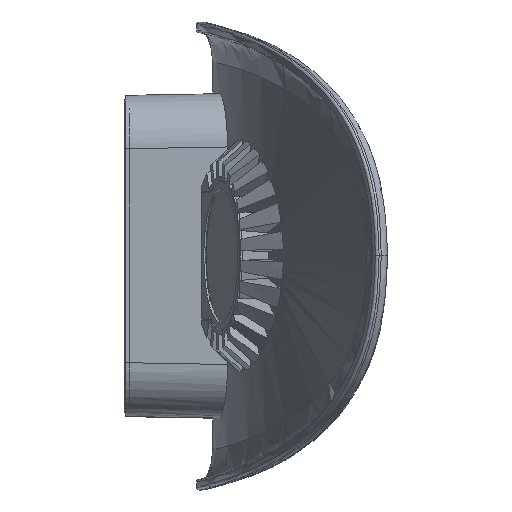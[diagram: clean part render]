
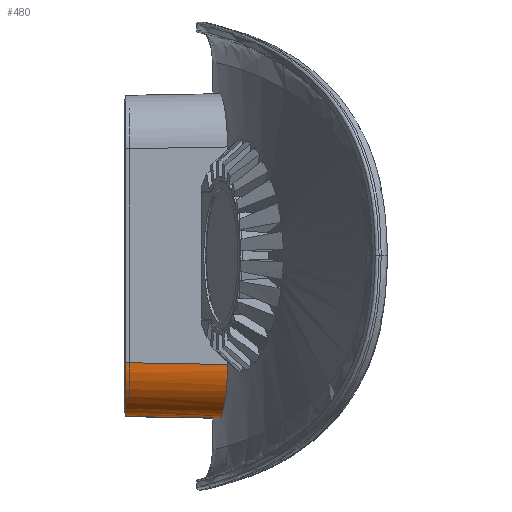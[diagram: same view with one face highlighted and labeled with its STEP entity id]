
A CAD part, top view. The second image highlights one B-rep face of the part: STEP entity #480.
In plain terms, the highlighted free-form (B-spline) face has degree [2, 1] with [9, 2] control points.
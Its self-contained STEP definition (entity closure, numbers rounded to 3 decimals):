
#480=ADVANCED_FACE('',(#774),#6174,.T.);
#774=FACE_OUTER_BOUND('',#1076,.T.);
#1076=EDGE_LOOP('',(#3003,#3004,#3005,#3006));
#3003=ORIENTED_EDGE('',*,*,#4177,.T.);
#3004=ORIENTED_EDGE('',*,*,#3329,.T.);
#3005=ORIENTED_EDGE('',*,*,#4178,.F.);
#3006=ORIENTED_EDGE('',*,*,#3368,.F.);
#3329=EDGE_CURVE('',#5419,#5425,#5217,.T.);
#3368=EDGE_CURVE('',#5472,#5554,#4380,.T.);
#4177=EDGE_CURVE('',#5472,#5419,#5076,.T.);
#4178=EDGE_CURVE('',#5554,#5425,#5077,.T.);
#4380=B_SPLINE_CURVE_WITH_KNOTS('',3,(#26215,#26216,#26217,#26218,#26219,
#26220,#26221,#26222,#26223,#26224,#26225,#26226,#26227,#26228,#26229,#26230,
#26231,#26232),.UNSPECIFIED.,.F.,.F.,(4,2,2,2,2,2,2,2,4),(0.,3.944,
7.889,11.833,15.777,19.747,23.717,
27.686,31.65),.UNSPECIFIED.);
#5076=B_SPLINE_CURVE_WITH_KNOTS('',1,(#34392,#34393),.UNSPECIFIED.,.F.,
 .F.,(2,2),(0.,38.298),.UNSPECIFIED.);
#5077=B_SPLINE_CURVE_WITH_KNOTS('',1,(#34394,#34395),.UNSPECIFIED.,.F.,
 .F.,(2,2),(-35.229,0.),.UNSPECIFIED.);
#5217=(
BOUNDED_CURVE()
B_SPLINE_CURVE(2,(#25674,#25675,#25676,#25677,#25678),.UNSPECIFIED.,.F.,
 .F.)
B_SPLINE_CURVE_WITH_KNOTS((3,2,3),(-33.132,-16.566,
0.),.UNSPECIFIED.)
CURVE()
GEOMETRIC_REPRESENTATION_ITEM()
RATIONAL_B_SPLINE_CURVE((1.,0.924,1.,0.924,1.))
REPRESENTATION_ITEM('')
);
#5419=VERTEX_POINT('',#24742);
#5425=VERTEX_POINT('',#24748);
#5472=VERTEX_POINT('',#24795);
#5554=VERTEX_POINT('',#24877);
#6174=(
BOUNDED_SURFACE()
B_SPLINE_SURFACE(2,1,((#23352,#23353),(#23354,#23355),(#23356,#23357),(#23358,
#23359),(#23360,#23361),(#23362,#23363),(#23364,#23365),(#23366,#23367),
(#23368,#23369)),.UNSPECIFIED.,.T.,.F.,.F.)
B_SPLINE_SURFACE_WITH_KNOTS((3,2,2,2,3),(2,2),(0.,31.416,62.832,
94.248,125.664),(0.,47.042),.UNSPECIFIED.)
GEOMETRIC_REPRESENTATION_ITEM()
RATIONAL_B_SPLINE_SURFACE(((1.,1.),(0.707,0.707),
(1.,1.),(0.707,0.707),(1.,1.),(0.707,
0.707),(1.,1.),(0.707,0.707),(1.,1.)))
REPRESENTATION_ITEM('')
SURFACE()
);
#23352=CARTESIAN_POINT('',(1.471,-25.789,25.789));
#23353=CARTESIAN_POINT('',(48.499,-26.61,26.61));
#23354=CARTESIAN_POINT('',(1.471,-11.647,39.931));
#23355=CARTESIAN_POINT('',(48.499,-12.468,40.752));
#23356=CARTESIAN_POINT('',(0.978,-25.785,54.069));
#23357=CARTESIAN_POINT('',(48.006,-26.606,54.89));
#23358=CARTESIAN_POINT('',(0.484,-39.923,68.206));
#23359=CARTESIAN_POINT('',(47.512,-40.744,69.027));
#23360=CARTESIAN_POINT('',(0.484,-54.065,54.064));
#23361=CARTESIAN_POINT('',(47.512,-54.886,54.885));
#23362=CARTESIAN_POINT('',(0.484,-68.207,39.922));
#23363=CARTESIAN_POINT('',(47.512,-69.028,40.743));
#23364=CARTESIAN_POINT('',(0.978,-54.069,25.784));
#23365=CARTESIAN_POINT('',(48.006,-54.89,26.605));
#23366=CARTESIAN_POINT('',(1.471,-39.931,11.646));
#23367=CARTESIAN_POINT('',(48.499,-40.752,12.467));
#23368=CARTESIAN_POINT('',(1.471,-25.789,25.789));
#23369=CARTESIAN_POINT('',(48.499,-26.61,26.61));
#24742=CARTESIAN_POINT('',(5.,-40.004,60.));
#24748=CARTESIAN_POINT('',(5.,-60.,40.003));
#24795=CARTESIAN_POINT('',(43.286,-40.672,60.668));
#24877=CARTESIAN_POINT('',(40.219,-60.615,40.617));
#25674=CARTESIAN_POINT('',(5.,-40.004,60.));
#25675=CARTESIAN_POINT('',(5.,-48.287,60.));
#25676=CARTESIAN_POINT('',(5.,-54.144,54.143));
#25677=CARTESIAN_POINT('',(5.,-60.,48.286));
#25678=CARTESIAN_POINT('',(5.,-60.,40.003));
#26215=CARTESIAN_POINT('',(43.286,-40.672,60.668));
#26216=CARTESIAN_POINT('',(43.286,-41.931,60.668));
#26217=CARTESIAN_POINT('',(43.264,-43.232,60.547));
#26218=CARTESIAN_POINT('',(43.171,-45.818,60.037));
#26219=CARTESIAN_POINT('',(43.1,-47.103,59.648));
#26220=CARTESIAN_POINT('',(42.916,-49.563,58.623));
#26221=CARTESIAN_POINT('',(42.803,-50.741,57.985));
#26222=CARTESIAN_POINT('',(42.547,-52.917,56.512));
#26223=CARTESIAN_POINT('',(42.405,-53.915,55.678));
#26224=CARTESIAN_POINT('',(42.11,-55.684,53.899));
#26225=CARTESIAN_POINT('',(41.947,-56.514,52.891));
#26226=CARTESIAN_POINT('',(41.604,-57.977,50.699));
#26227=CARTESIAN_POINT('',(41.424,-58.608,49.514));
#26228=CARTESIAN_POINT('',(41.064,-59.621,47.045));
#26229=CARTESIAN_POINT('',(40.884,-60.003,45.758));
#26230=CARTESIAN_POINT('',(40.538,-60.501,43.172));
#26231=CARTESIAN_POINT('',(40.372,-60.618,41.873));
#26232=CARTESIAN_POINT('',(40.219,-60.615,40.617));
#34392=CARTESIAN_POINT('',(43.286,-40.672,60.668));
#34393=CARTESIAN_POINT('',(5.,-40.004,60.));
#34394=CARTESIAN_POINT('',(40.219,-60.615,40.617));
#34395=CARTESIAN_POINT('',(5.,-60.,40.003));
